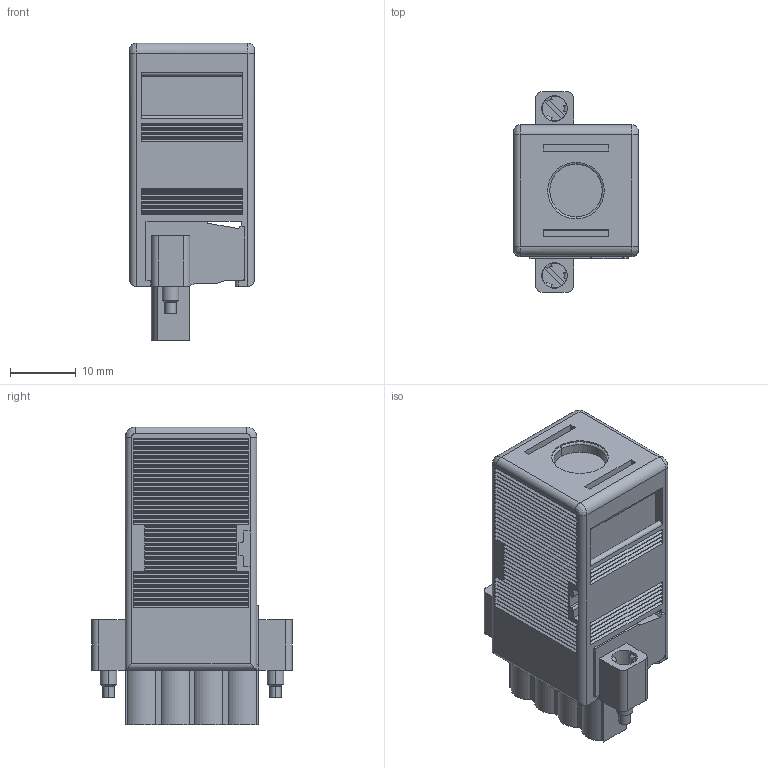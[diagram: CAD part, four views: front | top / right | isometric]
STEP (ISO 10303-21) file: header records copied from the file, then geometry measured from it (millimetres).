
FILE_DESCRIPTION((''),'2;1');
FILE_NAME('CONN_CRIO_4_POS_CMBCN_TB','2007-01-25T',('chrisj'),(''),'PRO/ENGINEER BY PARAMETRIC TECHNOLOGY CORPORATION, 2006080','PRO/ENGINEER BY PARAMETRIC TECHNOLOGY CORPORATION, 2006080','');
FILE_SCHEMA(('AUTOMOTIVE_DESIGN_CC2 { 1 2 10303 214 -1 1 5 2 }'));
Length unit declared in the file: inch
Products named in the file (1): CONN_CRIO_4_POS_CMBCN_TB
Bounding box: 19 x 30.48 x 45.3 mm (x, y, z)
Volume: 14322.8 mm3; surface area: 6195 mm2
Topology: 1 solids, 1 shells, 716 faces, 1732 edges, 1143 vertices
Faces by surface type: plane 585, cylinder 115, torus 8, bspline 4, cone 4
Entity records: 20805 total; most frequent: CARTESIAN_POINT 3682, ORIENTED_EDGE 3464, DIRECTION 3438, EDGE_CURVE 1732, VECTOR 1442, LINE 1442, VERTEX_POINT 1143, AXIS2_PLACEMENT_3D 998
